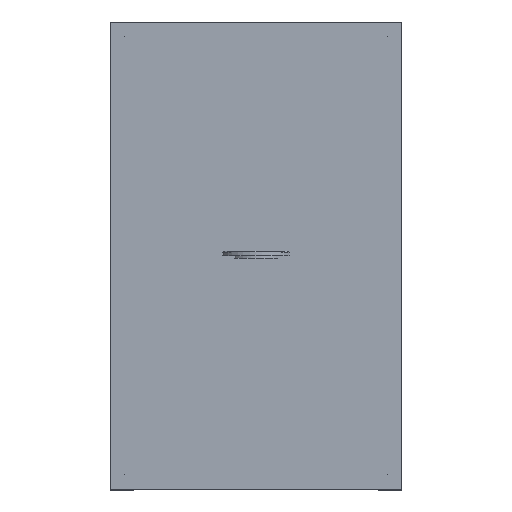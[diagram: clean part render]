
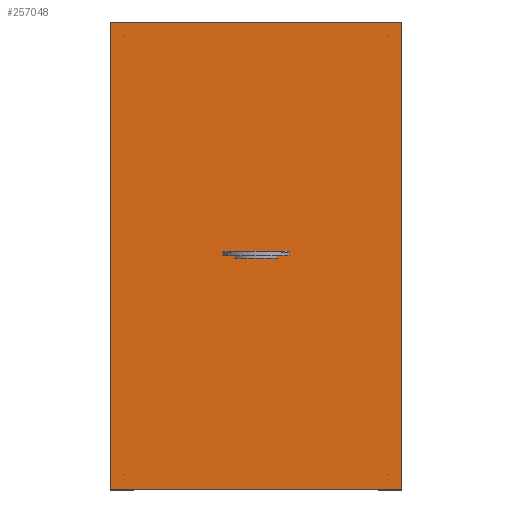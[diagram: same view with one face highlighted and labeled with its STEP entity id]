
A CAD part, top view. The second image highlights one B-rep face of the part: STEP entity #257048.
In plain terms, the highlighted planar face has unit normal (0, 0, 1).
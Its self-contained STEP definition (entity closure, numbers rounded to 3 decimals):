
#256734 = VERTEX_POINT('',#256735);
#256735 = CARTESIAN_POINT('',(-248.,-398.,402.));
#256742 = PLANE('',#256743);
#256743 = AXIS2_PLACEMENT_3D('',#256744,#256745,#256746);
#256744 = CARTESIAN_POINT('',(-248.,-398.,392.));
#256745 = DIRECTION('',(1.,0.,0.));
#256746 = DIRECTION('',(0.,0.,1.));
#256754 = PLANE('',#256755);
#256755 = AXIS2_PLACEMENT_3D('',#256756,#256757,#256758);
#256756 = CARTESIAN_POINT('',(-248.,-398.,392.));
#256757 = DIRECTION('',(0.,1.,0.));
#256758 = DIRECTION('',(0.,0.,1.));
#256795 = VERTEX_POINT('',#256796);
#256796 = CARTESIAN_POINT('',(-248.,398.,402.));
#256810 = PLANE('',#256811);
#256811 = AXIS2_PLACEMENT_3D('',#256812,#256813,#256814);
#256812 = CARTESIAN_POINT('',(-248.,398.,392.));
#256813 = DIRECTION('',(0.,1.,0.));
#256814 = DIRECTION('',(0.,0.,1.));
#256822 = EDGE_CURVE('',#256734,#256795,#256823,.T.);
#256823 = SURFACE_CURVE('',#256824,(#256828,#256835),.PCURVE_S1.);
#256824 = LINE('',#256825,#256826);
#256825 = CARTESIAN_POINT('',(-248.,-398.,402.));
#256826 = VECTOR('',#256827,1.);
#256827 = DIRECTION('',(0.,1.,0.));
#256828 = PCURVE('',#256742,#256829);
#256829 = DEFINITIONAL_REPRESENTATION('',(#256830),#256834);
#256830 = LINE('',#256831,#256832);
#256831 = CARTESIAN_POINT('',(10.,0.));
#256832 = VECTOR('',#256833,1.);
#256833 = DIRECTION('',(0.,-1.));
#256834 = ( GEOMETRIC_REPRESENTATION_CONTEXT(2) 
PARAMETRIC_REPRESENTATION_CONTEXT() REPRESENTATION_CONTEXT('2D SPACE',''
  ) );
#256835 = PCURVE('',#256836,#256841);
#256836 = PLANE('',#256837);
#256837 = AXIS2_PLACEMENT_3D('',#256838,#256839,#256840);
#256838 = CARTESIAN_POINT('',(-248.,-398.,402.));
#256839 = DIRECTION('',(0.,0.,1.));
#256840 = DIRECTION('',(1.,0.,0.));
#256841 = DEFINITIONAL_REPRESENTATION('',(#256842),#256846);
#256842 = LINE('',#256843,#256844);
#256843 = CARTESIAN_POINT('',(0.,0.));
#256844 = VECTOR('',#256845,1.);
#256845 = DIRECTION('',(0.,1.));
#256846 = ( GEOMETRIC_REPRESENTATION_CONTEXT(2) 
PARAMETRIC_REPRESENTATION_CONTEXT() REPRESENTATION_CONTEXT('2D SPACE',''
  ) );
#256854 = VERTEX_POINT('',#256855);
#256855 = CARTESIAN_POINT('',(248.,-398.,402.));
#256862 = PLANE('',#256863);
#256863 = AXIS2_PLACEMENT_3D('',#256864,#256865,#256866);
#256864 = CARTESIAN_POINT('',(248.,-398.,392.));
#256865 = DIRECTION('',(1.,0.,0.));
#256866 = DIRECTION('',(0.,0.,1.));
#256905 = VERTEX_POINT('',#256906);
#256906 = CARTESIAN_POINT('',(248.,398.,402.));
#256927 = EDGE_CURVE('',#256854,#256905,#256928,.T.);
#256928 = SURFACE_CURVE('',#256929,(#256933,#256940),.PCURVE_S1.);
#256929 = LINE('',#256930,#256931);
#256930 = CARTESIAN_POINT('',(248.,-398.,402.));
#256931 = VECTOR('',#256932,1.);
#256932 = DIRECTION('',(0.,1.,0.));
#256933 = PCURVE('',#256862,#256934);
#256934 = DEFINITIONAL_REPRESENTATION('',(#256935),#256939);
#256935 = LINE('',#256936,#256937);
#256936 = CARTESIAN_POINT('',(10.,0.));
#256937 = VECTOR('',#256938,1.);
#256938 = DIRECTION('',(0.,-1.));
#256939 = ( GEOMETRIC_REPRESENTATION_CONTEXT(2) 
PARAMETRIC_REPRESENTATION_CONTEXT() REPRESENTATION_CONTEXT('2D SPACE',''
  ) );
#256940 = PCURVE('',#256836,#256941);
#256941 = DEFINITIONAL_REPRESENTATION('',(#256942),#256946);
#256942 = LINE('',#256943,#256944);
#256943 = CARTESIAN_POINT('',(496.,0.));
#256944 = VECTOR('',#256945,1.);
#256945 = DIRECTION('',(0.,1.));
#256946 = ( GEOMETRIC_REPRESENTATION_CONTEXT(2) 
PARAMETRIC_REPRESENTATION_CONTEXT() REPRESENTATION_CONTEXT('2D SPACE',''
  ) );
#256973 = EDGE_CURVE('',#256734,#256854,#256974,.T.);
#256974 = SURFACE_CURVE('',#256975,(#256979,#256986),.PCURVE_S1.);
#256975 = LINE('',#256976,#256977);
#256976 = CARTESIAN_POINT('',(-248.,-398.,402.));
#256977 = VECTOR('',#256978,1.);
#256978 = DIRECTION('',(1.,0.,0.));
#256979 = PCURVE('',#256754,#256980);
#256980 = DEFINITIONAL_REPRESENTATION('',(#256981),#256985);
#256981 = LINE('',#256982,#256983);
#256982 = CARTESIAN_POINT('',(10.,0.));
#256983 = VECTOR('',#256984,1.);
#256984 = DIRECTION('',(0.,1.));
#256985 = ( GEOMETRIC_REPRESENTATION_CONTEXT(2) 
PARAMETRIC_REPRESENTATION_CONTEXT() REPRESENTATION_CONTEXT('2D SPACE',''
  ) );
#256986 = PCURVE('',#256836,#256987);
#256987 = DEFINITIONAL_REPRESENTATION('',(#256988),#256992);
#256988 = LINE('',#256989,#256990);
#256989 = CARTESIAN_POINT('',(0.,0.));
#256990 = VECTOR('',#256991,1.);
#256991 = DIRECTION('',(1.,0.));
#256992 = ( GEOMETRIC_REPRESENTATION_CONTEXT(2) 
PARAMETRIC_REPRESENTATION_CONTEXT() REPRESENTATION_CONTEXT('2D SPACE',''
  ) );
#257020 = EDGE_CURVE('',#256795,#256905,#257021,.T.);
#257021 = SURFACE_CURVE('',#257022,(#257026,#257033),.PCURVE_S1.);
#257022 = LINE('',#257023,#257024);
#257023 = CARTESIAN_POINT('',(-248.,398.,402.));
#257024 = VECTOR('',#257025,1.);
#257025 = DIRECTION('',(1.,0.,0.));
#257026 = PCURVE('',#256810,#257027);
#257027 = DEFINITIONAL_REPRESENTATION('',(#257028),#257032);
#257028 = LINE('',#257029,#257030);
#257029 = CARTESIAN_POINT('',(10.,0.));
#257030 = VECTOR('',#257031,1.);
#257031 = DIRECTION('',(0.,1.));
#257032 = ( GEOMETRIC_REPRESENTATION_CONTEXT(2) 
PARAMETRIC_REPRESENTATION_CONTEXT() REPRESENTATION_CONTEXT('2D SPACE',''
  ) );
#257033 = PCURVE('',#256836,#257034);
#257034 = DEFINITIONAL_REPRESENTATION('',(#257035),#257039);
#257035 = LINE('',#257036,#257037);
#257036 = CARTESIAN_POINT('',(0.,796.));
#257037 = VECTOR('',#257038,1.);
#257038 = DIRECTION('',(1.,0.));
#257039 = ( GEOMETRIC_REPRESENTATION_CONTEXT(2) 
PARAMETRIC_REPRESENTATION_CONTEXT() REPRESENTATION_CONTEXT('2D SPACE',''
  ) );
#257048 = ADVANCED_FACE('',(#257049),#256836,.T.);
#257049 = FACE_BOUND('',#257050,.T.);
#257050 = EDGE_LOOP('',(#257051,#257052,#257053,#257054));
#257051 = ORIENTED_EDGE('',*,*,#256822,.F.);
#257052 = ORIENTED_EDGE('',*,*,#256973,.T.);
#257053 = ORIENTED_EDGE('',*,*,#256927,.T.);
#257054 = ORIENTED_EDGE('',*,*,#257020,.F.);
